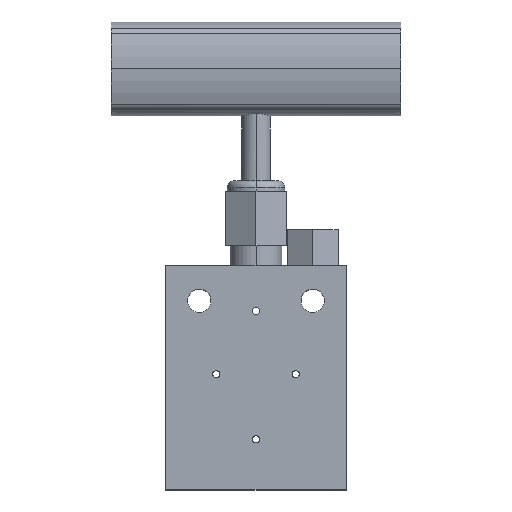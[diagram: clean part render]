
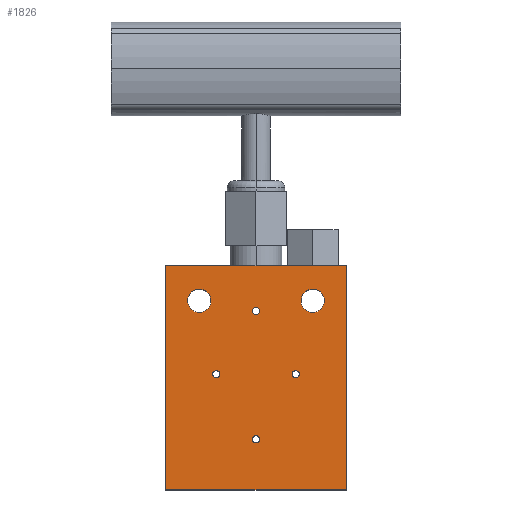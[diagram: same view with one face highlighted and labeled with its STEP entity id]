
A CAD part, top view. The second image highlights one B-rep face of the part: STEP entity #1826.
In plain terms, the highlighted planar face has unit normal (0, 0, 1).
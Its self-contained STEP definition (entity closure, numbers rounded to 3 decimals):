
#18 = ORIENTED_EDGE ( 'NONE', *, *, #3276, .F. ) ;
#42 = AXIS2_PLACEMENT_3D ( 'NONE', #1044, #755, #2474 ) ;
#87 = ORIENTED_EDGE ( 'NONE', *, *, #3353, .F. ) ;
#97 = LINE ( 'NONE', #1571, #2262 ) ;
#139 = EDGE_CURVE ( 'NONE', #3664, #3210, #2721, .T. ) ;
#150 = ORIENTED_EDGE ( 'NONE', *, *, #1629, .T. ) ;
#160 = DIRECTION ( 'NONE',  ( 1., 0., 0. ) ) ;
#171 = AXIS2_PLACEMENT_3D ( 'NONE', #3546, #2358, #3254 ) ;
#186 = AXIS2_PLACEMENT_3D ( 'NONE', #2297, #1208, #1500 ) ;
#188 = CARTESIAN_POINT ( 'NONE',  ( -10., 1., 10. ) ) ;
#202 = FACE_OUTER_BOUND ( 'NONE', #591, .T. ) ;
#248 = CARTESIAN_POINT ( 'NONE',  ( -12., 1., 10. ) ) ;
#259 = AXIS2_PLACEMENT_3D ( 'NONE', #1111, #1627, #1070 ) ;
#345 = CIRCLE ( 'NONE', #171, 1. ) ;
#356 = EDGE_CURVE ( 'NONE', #3604, #1533, #3517, .T. ) ;
#386 = CARTESIAN_POINT ( 'NONE',  ( 25., -31., 10. ) ) ;
#396 = EDGE_LOOP ( 'NONE', ( #3611, #18 ) ) ;
#402 = DIRECTION ( 'NONE',  ( 0., 0., 1. ) ) ;
#451 = ORIENTED_EDGE ( 'NONE', *, *, #2760, .F. ) ;
#508 = AXIS2_PLACEMENT_3D ( 'NONE', #2403, #2442, #2167 ) ;
#516 = FACE_BOUND ( 'NONE', #611, .T. ) ;
#551 = CARTESIAN_POINT ( 'NONE',  ( -25., 31., 10. ) ) ;
#568 = CARTESIAN_POINT ( 'NONE',  ( 10., 1., 10. ) ) ;
#583 = DIRECTION ( 'NONE',  ( 0., 0., 1. ) ) ;
#591 = EDGE_LOOP ( 'NONE', ( #2240, #2404, #2717, #150 ) ) ;
#611 = EDGE_LOOP ( 'NONE', ( #87, #3422 ) ) ;
#641 = EDGE_CURVE ( 'NONE', #2294, #2992, #2766, .T. ) ;
#642 = DIRECTION ( 'NONE',  ( 1., 0., 0. ) ) ;
#654 = DIRECTION ( 'NONE',  ( 0., 1., 0. ) ) ;
#674 = CARTESIAN_POINT ( 'NONE',  ( -1., 18.5, 10. ) ) ;
#697 = AXIS2_PLACEMENT_3D ( 'NONE', #3074, #1022, #160 ) ;
#717 = ORIENTED_EDGE ( 'NONE', *, *, #2216, .F. ) ;
#741 = VECTOR ( 'NONE', #2342, 1000. ) ;
#746 = CARTESIAN_POINT ( 'NONE',  ( 12., 1., 10. ) ) ;
#755 = DIRECTION ( 'NONE',  ( 0., 0., 1. ) ) ;
#782 = ORIENTED_EDGE ( 'NONE', *, *, #139, .F. ) ;
#788 = DIRECTION ( 'NONE',  ( 0., 0., 1. ) ) ;
#810 = DIRECTION ( 'NONE',  ( 1., 0., 0. ) ) ;
#841 = DIRECTION ( 'NONE',  ( -1., 0., 0. ) ) ;
#845 = VECTOR ( 'NONE', #1971, 1000. ) ;
#877 = EDGE_CURVE ( 'NONE', #3328, #1601, #97, .T. ) ;
#989 = VERTEX_POINT ( 'NONE', #746 ) ;
#1022 = DIRECTION ( 'NONE',  ( 0., 0., 1. ) ) ;
#1025 = PLANE ( 'NONE',  #42 ) ;
#1044 = CARTESIAN_POINT ( 'NONE',  ( 0., 0., 10. ) ) ;
#1058 = AXIS2_PLACEMENT_3D ( 'NONE', #3716, #402, #642 ) ;
#1064 = FACE_BOUND ( 'NONE', #3118, .T. ) ;
#1068 = CARTESIAN_POINT ( 'NONE',  ( 1., 18.5, 10. ) ) ;
#1070 = DIRECTION ( 'NONE',  ( 1., 0., 0. ) ) ;
#1111 = CARTESIAN_POINT ( 'NONE',  ( 0., 18.5, 10. ) ) ;
#1208 = DIRECTION ( 'NONE',  ( 0., 0., 1. ) ) ;
#1238 = EDGE_CURVE ( 'NONE', #1838, #3328, #2600, .T. ) ;
#1251 = AXIS2_PLACEMENT_3D ( 'NONE', #2622, #2315, #2370 ) ;
#1271 = EDGE_CURVE ( 'NONE', #2877, #3682, #2046, .T. ) ;
#1283 = AXIS2_PLACEMENT_3D ( 'NONE', #3380, #788, #810 ) ;
#1334 = CARTESIAN_POINT ( 'NONE',  ( 18.95, 21.3, 10. ) ) ;
#1374 = CIRCLE ( 'NONE', #697, 3.25 ) ;
#1386 = DIRECTION ( 'NONE',  ( 1., 0., 0. ) ) ;
#1414 = EDGE_LOOP ( 'NONE', ( #3586, #1698 ) ) ;
#1436 = ORIENTED_EDGE ( 'NONE', *, *, #1271, .F. ) ;
#1471 = EDGE_CURVE ( 'NONE', #989, #2312, #2015, .T. ) ;
#1500 = DIRECTION ( 'NONE',  ( 1., 0., 0. ) ) ;
#1509 = EDGE_CURVE ( 'NONE', #3682, #2877, #3463, .T. ) ;
#1510 = CARTESIAN_POINT ( 'NONE',  ( 1., -17., 10. ) ) ;
#1533 = VERTEX_POINT ( 'NONE', #1068 ) ;
#1534 = DIRECTION ( 'NONE',  ( 0., 0., 1. ) ) ;
#1571 = CARTESIAN_POINT ( 'NONE',  ( 25., 31., 10. ) ) ;
#1601 = VERTEX_POINT ( 'NONE', #3505 ) ;
#1602 = DIRECTION ( 'NONE',  ( 0., 0., 1. ) ) ;
#1606 = EDGE_LOOP ( 'NONE', ( #717, #2669 ) ) ;
#1627 = DIRECTION ( 'NONE',  ( 0., 0., 1. ) ) ;
#1629 = EDGE_CURVE ( 'NONE', #1601, #3093, #1804, .T. ) ;
#1640 = VERTEX_POINT ( 'NONE', #1749 ) ;
#1659 = DIRECTION ( 'NONE',  ( 0., 0., 1. ) ) ;
#1698 = ORIENTED_EDGE ( 'NONE', *, *, #641, .F. ) ;
#1749 = CARTESIAN_POINT ( 'NONE',  ( -18.95, 21.3, 10. ) ) ;
#1804 = LINE ( 'NONE', #2649, #741 ) ;
#1810 = CARTESIAN_POINT ( 'NONE',  ( 15.7, 21.3, 10. ) ) ;
#1826 = ADVANCED_FACE ( 'NONE', ( #2197, #2436, #3603, #1880, #516, #1064, #202 ), #1025, .T. ) ;
#1833 = CARTESIAN_POINT ( 'NONE',  ( 12.45, 21.3, 10. ) ) ;
#1838 = VERTEX_POINT ( 'NONE', #2456 ) ;
#1867 = VECTOR ( 'NONE', #2953, 1000. ) ;
#1880 = FACE_BOUND ( 'NONE', #396, .T. ) ;
#1922 = EDGE_LOOP ( 'NONE', ( #451, #782 ) ) ;
#1951 = CIRCLE ( 'NONE', #1251, 1. ) ;
#1971 = DIRECTION ( 'NONE',  ( 0., -1., 0. ) ) ;
#2006 = EDGE_CURVE ( 'NONE', #2992, #2294, #2573, .T. ) ;
#2015 = CIRCLE ( 'NONE', #508, 1. ) ;
#2036 = DIRECTION ( 'NONE',  ( -1., 0., 0. ) ) ;
#2042 = CARTESIAN_POINT ( 'NONE',  ( -12.45, 21.3, 10. ) ) ;
#2046 = CIRCLE ( 'NONE', #3182, 3.25 ) ;
#2057 = ORIENTED_EDGE ( 'NONE', *, *, #1509, .F. ) ;
#2150 = CIRCLE ( 'NONE', #3478, 3.25 ) ;
#2167 = DIRECTION ( 'NONE',  ( 1., 0., 0. ) ) ;
#2197 = FACE_BOUND ( 'NONE', #1606, .T. ) ;
#2199 = CARTESIAN_POINT ( 'NONE',  ( -15.7, 21.3, 10. ) ) ;
#2216 = EDGE_CURVE ( 'NONE', #1533, #3604, #3332, .T. ) ;
#2240 = ORIENTED_EDGE ( 'NONE', *, *, #3472, .T. ) ;
#2262 = VECTOR ( 'NONE', #654, 1000. ) ;
#2274 = CARTESIAN_POINT ( 'NONE',  ( 15.7, 21.3, 10. ) ) ;
#2294 = VERTEX_POINT ( 'NONE', #248 ) ;
#2297 = CARTESIAN_POINT ( 'NONE',  ( -11., 1., 10. ) ) ;
#2312 = VERTEX_POINT ( 'NONE', #568 ) ;
#2315 = DIRECTION ( 'NONE',  ( 0., 0., 1. ) ) ;
#2342 = DIRECTION ( 'NONE',  ( -1., 0., 0. ) ) ;
#2358 = DIRECTION ( 'NONE',  ( 0., 0., 1. ) ) ;
#2370 = DIRECTION ( 'NONE',  ( 1., 0., 0. ) ) ;
#2403 = CARTESIAN_POINT ( 'NONE',  ( 11., 1., 10. ) ) ;
#2404 = ORIENTED_EDGE ( 'NONE', *, *, #1238, .T. ) ;
#2420 = VERTEX_POINT ( 'NONE', #2042 ) ;
#2436 = FACE_BOUND ( 'NONE', #1414, .T. ) ;
#2442 = DIRECTION ( 'NONE',  ( 0., 0., 1. ) ) ;
#2456 = CARTESIAN_POINT ( 'NONE',  ( -25., -31., 10. ) ) ;
#2474 = DIRECTION ( 'NONE',  ( 1., 0., 0. ) ) ;
#2535 = DIRECTION ( 'NONE',  ( 1., 0., 0. ) ) ;
#2558 = CARTESIAN_POINT ( 'NONE',  ( -25., 31., 10. ) ) ;
#2573 = CIRCLE ( 'NONE', #1058, 1. ) ;
#2600 = LINE ( 'NONE', #3534, #1867 ) ;
#2622 = CARTESIAN_POINT ( 'NONE',  ( 0., -17., 10. ) ) ;
#2649 = CARTESIAN_POINT ( 'NONE',  ( -25., 31., 10. ) ) ;
#2669 = ORIENTED_EDGE ( 'NONE', *, *, #356, .F. ) ;
#2717 = ORIENTED_EDGE ( 'NONE', *, *, #877, .T. ) ;
#2721 = CIRCLE ( 'NONE', #1283, 1. ) ;
#2760 = EDGE_CURVE ( 'NONE', #3210, #3664, #1951, .T. ) ;
#2766 = CIRCLE ( 'NONE', #186, 1. ) ;
#2877 = VERTEX_POINT ( 'NONE', #1334 ) ;
#2893 = EDGE_CURVE ( 'NONE', #1640, #2420, #2150, .T. ) ;
#2953 = DIRECTION ( 'NONE',  ( 1., 0., 0. ) ) ;
#2992 = VERTEX_POINT ( 'NONE', #188 ) ;
#3056 = LINE ( 'NONE', #551, #845 ) ;
#3074 = CARTESIAN_POINT ( 'NONE',  ( -15.7, 21.3, 10. ) ) ;
#3093 = VERTEX_POINT ( 'NONE', #2558 ) ;
#3118 = EDGE_LOOP ( 'NONE', ( #1436, #2057 ) ) ;
#3146 = CARTESIAN_POINT ( 'NONE',  ( 0., 18.5, 10. ) ) ;
#3182 = AXIS2_PLACEMENT_3D ( 'NONE', #1810, #1534, #2036 ) ;
#3210 = VERTEX_POINT ( 'NONE', #1510 ) ;
#3254 = DIRECTION ( 'NONE',  ( 1., 0., 0. ) ) ;
#3276 = EDGE_CURVE ( 'NONE', #2312, #989, #345, .T. ) ;
#3328 = VERTEX_POINT ( 'NONE', #386 ) ;
#3332 = CIRCLE ( 'NONE', #3580, 1. ) ;
#3353 = EDGE_CURVE ( 'NONE', #2420, #1640, #1374, .T. ) ;
#3380 = CARTESIAN_POINT ( 'NONE',  ( 0., -17., 10. ) ) ;
#3422 = ORIENTED_EDGE ( 'NONE', *, *, #2893, .F. ) ;
#3463 = CIRCLE ( 'NONE', #3711, 3.25 ) ;
#3472 = EDGE_CURVE ( 'NONE', #3093, #1838, #3056, .T. ) ;
#3478 = AXIS2_PLACEMENT_3D ( 'NONE', #2199, #1602, #2535 ) ;
#3505 = CARTESIAN_POINT ( 'NONE',  ( 25., 31., 10. ) ) ;
#3517 = CIRCLE ( 'NONE', #259, 1. ) ;
#3534 = CARTESIAN_POINT ( 'NONE',  ( -25., -31., 10. ) ) ;
#3546 = CARTESIAN_POINT ( 'NONE',  ( 11., 1., 10. ) ) ;
#3557 = CARTESIAN_POINT ( 'NONE',  ( -1., -17., 10. ) ) ;
#3580 = AXIS2_PLACEMENT_3D ( 'NONE', #3146, #583, #1386 ) ;
#3586 = ORIENTED_EDGE ( 'NONE', *, *, #2006, .F. ) ;
#3603 = FACE_BOUND ( 'NONE', #1922, .T. ) ;
#3604 = VERTEX_POINT ( 'NONE', #674 ) ;
#3611 = ORIENTED_EDGE ( 'NONE', *, *, #1471, .F. ) ;
#3664 = VERTEX_POINT ( 'NONE', #3557 ) ;
#3682 = VERTEX_POINT ( 'NONE', #1833 ) ;
#3711 = AXIS2_PLACEMENT_3D ( 'NONE', #2274, #1659, #841 ) ;
#3716 = CARTESIAN_POINT ( 'NONE',  ( -11., 1., 10. ) ) ;
